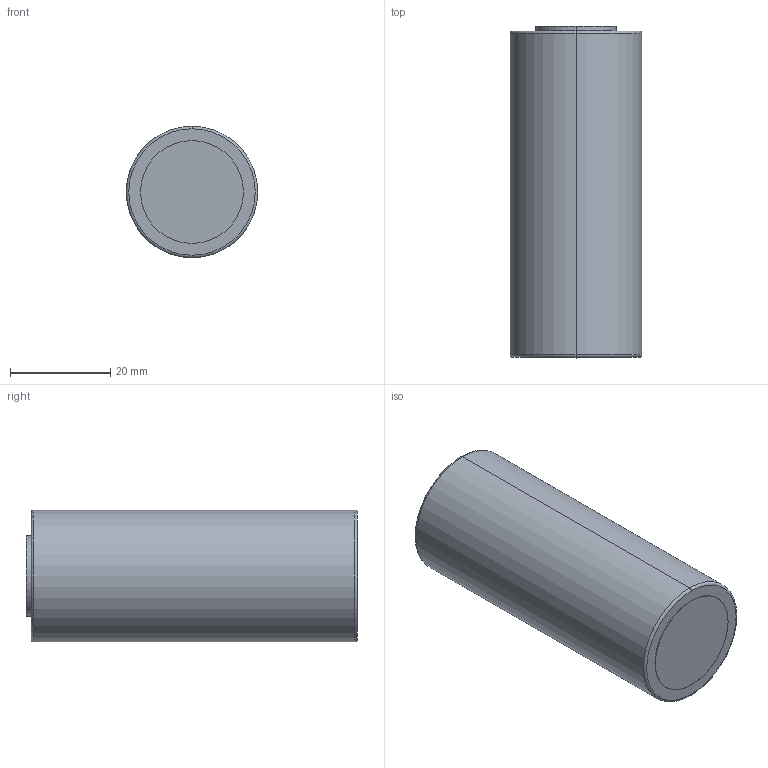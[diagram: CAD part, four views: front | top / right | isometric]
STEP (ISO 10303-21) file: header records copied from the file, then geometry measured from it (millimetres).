
FILE_DESCRIPTION (( 'STEP AP214' ), '1' );
FILE_NAME ('26650 Li-ion.STEP', '2022-11-03T15:38:16', ( '' ), ( '' ), 'SwSTEP 2.0', 'SolidWorks 2021', '' );
FILE_SCHEMA (( 'AUTOMOTIVE_DESIGN' ));
Length unit declared in the file: millimetre
Products named in the file (1): 26650 Li-ion
Bounding box: 26.2 x 66.1 x 26.2 mm (x, y, z)
Volume: 35268.7 mm3; surface area: 6449.5 mm2
Topology: 1 solids, 1 shells, 14 faces, 26 edges, 16 vertices
Faces by surface type: cylinder 6, torus 4, plane 4
Entity records: 436 total; most frequent: DIRECTION 76, CARTESIAN_POINT 57, ORIENTED_EDGE 52, AXIS2_PLACEMENT_3D 35, EDGE_CURVE 26, CIRCLE 20, EDGE_LOOP 16, VERTEX_POINT 16
